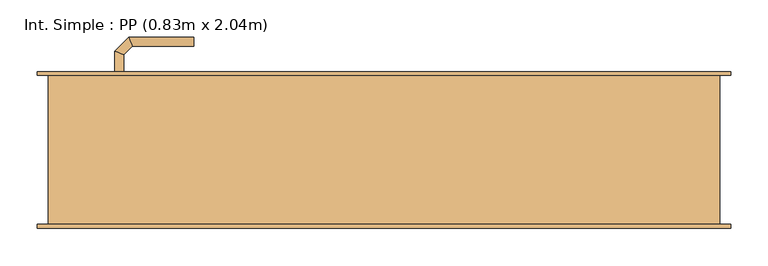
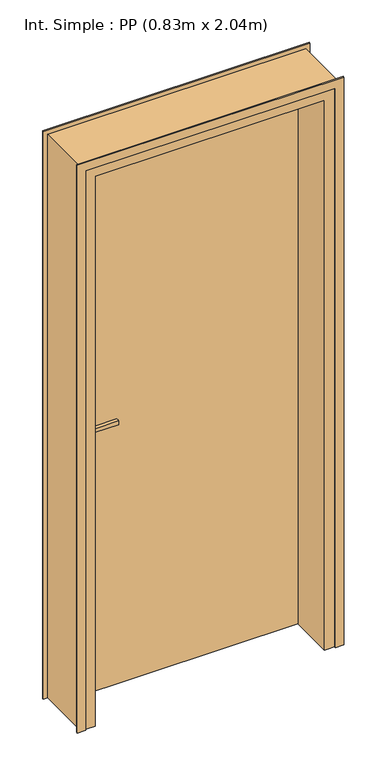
"""IFC4 building model written with IfcOpenShell, lengths in millimetres: door geometry, Int. Simple : PP (0.83m x 2.04m)."""

from ifc_helpers import new_model, si_unit, point, frame, frame_2d, origin, origin_with_axes, place, context, project, spatial, polyline, circle_curve, ellipse_curve, trimmed, segment, composite_curve, outline, extrude, faceted_brep, source, transform, mapped, element, save
from ifc_brep_helpers import plane_surface, cylinder_surface, advanced_brep


def int_simple_pp_0_83m_x_2_04m_d9e52805(model_context):
    return source(origin(), model_context, "Body", "SolidModel", [
        extrude(outline(composite_curve([segment(trimmed(circle_curve(frame_2d((904.6410162, -390.0)), 40.0), [point((870.0, -410.0))], [point((870.0, -370.0))], False, "CARTESIAN"), True, "CONTINUOUS"), segment(polyline([(870.0, -370.0), (1080.0, -370.0)]), True, "CONTINUOUS"), segment(trimmed(circle_curve(frame_2d((1045.3589838, -390.0)), 40.0), [point((1080.0, -370.0))], [point((1080.0, -410.0))], False, "CARTESIAN"), True, "CONTINUOUS"), segment(polyline([(1080.0, -410.0), (870.0, -410.0)]), True, "CONTINUOUS")], self_intersect=False)), frame((0.0, 100.0, 0.0), z_axis=(0.0, 1.0, 0.0), x_axis=(0.0, 0.0, 1.0)), (0.0, 0.0, 1.0), 5.0),
        extrude(outline(composite_curve([segment(trimmed(circle_curve(frame_2d((1045.3589838, -390.0)), 40.0), [point((1080.0, -370.0))], [point((1080.0, -410.0))], False, "CARTESIAN"), True, "CONTINUOUS"), segment(polyline([(1080.0, -410.0), (870.0, -410.0)]), True, "CONTINUOUS"), segment(trimmed(circle_curve(frame_2d((904.6410162, -390.0)), 40.0), [point((870.0, -410.0))], [point((870.0, -370.0))], False, "CARTESIAN"), True, "CONTINUOUS"), segment(polyline([(870.0, -370.0), (1080.0, -370.0)]), True, "CONTINUOUS")], self_intersect=False)), frame((0.0, 55.0, 0.0), z_axis=(0.0, 1.0, 0.0), x_axis=(0.0, 0.0, 1.0)), (0.0, 0.0, 1.0), 5.0),
        advanced_brep(
        [(-396.0, 105.0, 1007.0), (-396.0, 105.0, 993.0), (-384.0, 105.0, 993.0), (-384.0, 105.0, 1007.0), (-384.0, 127.680388, 1007.0), (-396.0, 132.6509507, 1007.0), (-384.0, 127.680388, 993.0), (-396.0, 132.6509507, 993.0), (-372.6522273, 139.0281607, 1007.0), (-377.62279, 151.0281607, 1007.0), (-372.6522273, 139.0281607, 993.0), (-377.62279, 151.0281607, 993.0), (-289.9813594, 151.0281607, 1007.0), (-289.9813594, 139.0281607, 1007.0), (-289.9813594, 139.0281607, 993.0), (-289.9813594, 151.0281607, 993.0)],
        [
            (0, 1),
            (1, 2, circle_curve(frame((-390.0, 105.0, 1013.0457722), z_axis=(0.0, -1.0, 0.0), x_axis=(1.0, 0.0, 0.0)), 20.9244589)),
            (2, 3),
            (3, 0, circle_curve(frame((-390.0, 105.0, 986.9542278), z_axis=(0.0, -1.0, 0.0), x_axis=(1.0, 0.0, 0.0)), 20.9244589)),
            (3, 4),
            (4, 5, ellipse_curve(frame((-390.0, 130.1656693, 986.9542278), z_axis=(-0.3826834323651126, -0.9238795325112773, 0.0), x_axis=(0.9238795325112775, -0.38268343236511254, 0.0)), 22.6484711, 20.9244589)),
            (5, 0),
            (2, 6),
            (6, 4),
            (1, 7),
            (7, 6, ellipse_curve(frame((-390.0, 130.1656693, 1013.0457722), z_axis=(-0.3826834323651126, -0.9238795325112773, 0.0), x_axis=(0.9238795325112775, -0.38268343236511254, 0.0)), 22.6484711, 20.9244589)),
            (5, 7),
            (4, 8),
            (8, 9, ellipse_curve(frame((-375.1375086, 145.0281607, 986.9542278), z_axis=(-0.9238795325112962, -0.38268343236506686, 0.0), x_axis=(0.3826834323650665, -0.9238795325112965, 0.0)), 22.6484711, 20.9244589)),
            (9, 5),
            (6, 10),
            (10, 8),
            (7, 11),
            (11, 10, ellipse_curve(frame((-375.1375086, 145.0281607, 1013.0457722), z_axis=(-0.9238795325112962, -0.38268343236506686, 0.0), x_axis=(0.3826834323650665, -0.9238795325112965, 0.0)), 22.6484711, 20.9244589)),
            (9, 11),
            (12, 13, circle_curve(frame((-289.9813594, 145.0281607, 986.9542278), z_axis=(1.0, 0.0, 0.0), x_axis=(0.0, -1.0, 0.0)), 20.9244589)),
            (13, 14),
            (14, 15, circle_curve(frame((-289.9813594, 145.0281607, 1013.0457722), z_axis=(1.0, 0.0, 0.0), x_axis=(0.0, -1.0, 0.0)), 20.9244589)),
            (15, 12),
            (8, 13),
            (12, 9),
            (10, 14),
            (11, 15),
        ],
        [
            plane_surface(frame((-399.2195445, 105.0, 1000.0), z_axis=(0.0, -1.0, 0.0), x_axis=(0.0, 0.0, -1.0))),
            cylinder_surface(frame((-390.0, 105.0, 986.9542278), z_axis=(0.0, -1.0, 0.0), x_axis=(1.0, 0.0, 0.0)), 20.9244589),
            plane_surface(frame((-384.0, 105.0, 1007.0), z_axis=(1.0, 0.0, 0.0), x_axis=(0.0, 1.0, 0.0))),
            cylinder_surface(frame((-390.0, 105.0, 1013.0457722), z_axis=(0.0, -1.0, 0.0), x_axis=(1.0, 0.0, 0.0)), 20.9244589),
            plane_surface(frame((-396.0, 105.0, 993.0), z_axis=(-1.0, 0.0, 0.0), x_axis=(0.0, 1.0, 0.0))),
            cylinder_surface(frame((-390.0, 130.1656693, 986.9542278), z_axis=(-0.7071067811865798, -0.7071067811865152, 0.0), x_axis=(0.7071067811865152, -0.7071067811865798, 0.0)), 20.9244589),
            plane_surface(frame((-384.0, 127.680388, 1007.0), z_axis=(0.7071067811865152, -0.7071067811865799, 0.0), x_axis=(0.7071067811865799, 0.7071067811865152, 0.0))),
            cylinder_surface(frame((-390.0, 130.1656693, 1013.0457722), z_axis=(-0.7071067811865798, -0.7071067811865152, 0.0), x_axis=(0.7071067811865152, -0.7071067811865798, 0.0)), 20.9244589),
            plane_surface(frame((-396.0, 132.6509507, 993.0), z_axis=(-0.7071067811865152, 0.7071067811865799, 0.0), x_axis=(0.7071067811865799, 0.7071067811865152, 0.0))),
            plane_surface(frame((-289.9813594, 145.0281607, 990.7804555), z_axis=(1.0, 0.0, 0.0), x_axis=(0.0, -1.0, 0.0))),
            cylinder_surface(frame((-375.1375086, 145.0281607, 986.9542278), z_axis=(-1.0, 0.0, 0.0), x_axis=(0.0, -1.0, 0.0)), 20.9244589),
            plane_surface(frame((-372.6522273, 139.0281607, 1007.0), z_axis=(0.0, -1.0, 0.0), x_axis=(1.0, 0.0, 0.0))),
            cylinder_surface(frame((-375.1375086, 145.0281607, 1013.0457722), z_axis=(-1.0, 0.0, 0.0), x_axis=(0.0, -1.0, 0.0)), 20.9244589),
            plane_surface(frame((-377.62279, 151.0281607, 993.0), z_axis=(0.0, 1.0, 0.0), x_axis=(1.0, 0.0, 0.0))),
        ],
        [
            (0, [[1, 2, 3, 4]]),
            (1, [[5, 6, 7, -4]]),
            (2, [[8, 9, -5, -3]]),
            (3, [[10, 11, -8, -2]]),
            (4, [[-7, 12, -10, -1]]),
            (5, [[13, 14, 15, -6]]),
            (6, [[16, 17, -13, -9]]),
            (7, [[18, 19, -16, -11]]),
            (8, [[-15, 20, -18, -12]]),
            (9, [[21, 22, 23, 24]]),
            (10, [[25, -21, 26, -14]]),
            (11, [[27, -22, -25, -17]]),
            (12, [[28, -23, -27, -19]]),
            (13, [[-26, -24, -28, -20]]),
        ],
    ),
        advanced_brep(
        [(-384.0, 55.0, 993.0), (-396.0, 55.0, 993.0), (-396.0, 55.0, 1007.0), (-384.0, 55.0, 1007.0), (-384.0, 32.5147955, 1007.0), (-384.0, 32.5147955, 993.0), (-396.0, 27.5442327, 1007.0), (-396.0, 27.5442327, 993.0), (-372.5147186, 21.0295141, 1007.0), (-372.5147186, 21.0295141, 993.0), (-377.4852814, 9.0295141, 1007.0), (-377.4852814, 9.0295141, 993.0), (-289.9542163, 21.0295141, 993.0), (-289.9542163, 21.0295141, 1007.0), (-289.9542163, 9.0295141, 1007.0), (-289.9542163, 9.0295141, 993.0)],
        [
            (0, 1, circle_curve(frame((-390.0, 55.0, 1013.0457722), z_axis=(0.0, 1.0, 0.0), x_axis=(-1.0, 0.0, 0.0)), 20.9244589)),
            (1, 2),
            (2, 3, circle_curve(frame((-390.0, 55.0, 986.9542278), z_axis=(0.0, 1.0, 0.0), x_axis=(-1.0, 0.0, 0.0)), 20.9244589)),
            (3, 0),
            (3, 4),
            (4, 5),
            (5, 0),
            (2, 6),
            (6, 4, ellipse_curve(frame((-390.0, 30.0295141, 986.9542278), z_axis=(-0.3826834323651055, 0.9238795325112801, 0.0), x_axis=(0.9238795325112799, 0.3826834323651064, 0.0)), 22.6484711, 20.9244589)),
            (1, 7),
            (7, 6),
            (5, 7, ellipse_curve(frame((-390.0, 30.0295141, 1013.0457722), z_axis=(-0.3826834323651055, 0.9238795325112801, 0.0), x_axis=(0.9238795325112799, 0.3826834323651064, 0.0)), 22.6484711, 20.9244589)),
            (4, 8),
            (8, 9),
            (9, 5),
            (6, 10),
            (10, 8, ellipse_curve(frame((-375.0, 15.0295141, 986.9542278), z_axis=(-0.9238795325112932, 0.382683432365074, 0.0), x_axis=(0.3826834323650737, 0.9238795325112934, 0.0)), 22.6484711, 20.9244589)),
            (7, 11),
            (11, 10),
            (9, 11, ellipse_curve(frame((-375.0, 15.0295141, 1013.0457722), z_axis=(-0.9238795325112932, 0.382683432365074, 0.0), x_axis=(0.3826834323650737, 0.9238795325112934, 0.0)), 22.6484711, 20.9244589)),
            (12, 13),
            (13, 14, circle_curve(frame((-289.9542163, 15.0295141, 986.9542278), z_axis=(1.0, 0.0, 0.0), x_axis=(0.0, -1.0, 0.0)), 20.9244589)),
            (14, 15),
            (15, 12, circle_curve(frame((-289.9542163, 15.0295141, 1013.0457722), z_axis=(1.0, 0.0, 0.0), x_axis=(0.0, -1.0, 0.0)), 20.9244589)),
            (8, 13),
            (12, 9),
            (10, 14),
            (11, 15),
        ],
        [
            plane_surface(frame((-399.2195445, 55.0, 1000.0), z_axis=(0.0, 1.0, 0.0), x_axis=(0.0, 0.0, 1.0))),
            plane_surface(frame((-384.0, 55.0, 993.0), z_axis=(1.0, 0.0, 0.0), x_axis=(0.0, -1.0, 0.0))),
            cylinder_surface(frame((-390.0, 55.0, 986.9542278), z_axis=(0.0, 1.0, 0.0), x_axis=(-1.0, 0.0, 0.0)), 20.9244589),
            plane_surface(frame((-396.0, 55.0, 1007.0), z_axis=(-1.0, 0.0, 0.0), x_axis=(0.0, -1.0, 0.0))),
            cylinder_surface(frame((-390.0, 55.0, 1013.0457722), z_axis=(0.0, 1.0, 0.0), x_axis=(-1.0, 0.0, 0.0)), 20.9244589),
            plane_surface(frame((-384.0, 32.5147955, 993.0), z_axis=(0.7071067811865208, 0.7071067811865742, 0.0), x_axis=(0.7071067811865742, -0.7071067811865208, 0.0))),
            cylinder_surface(frame((-390.0, 30.0295141, 986.9542278), z_axis=(-0.7071067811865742, 0.7071067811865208, 0.0), x_axis=(-0.7071067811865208, -0.7071067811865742, 0.0)), 20.9244589),
            plane_surface(frame((-396.0, 27.5442327, 1007.0), z_axis=(-0.7071067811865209, -0.7071067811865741, 0.0), x_axis=(0.7071067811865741, -0.7071067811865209, 0.0))),
            cylinder_surface(frame((-390.0, 30.0295141, 1013.0457722), z_axis=(-0.7071067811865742, 0.7071067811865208, 0.0), x_axis=(-0.7071067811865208, -0.7071067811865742, 0.0)), 20.9244589),
            plane_surface(frame((-289.9542163, 15.0295141, 990.7804555), z_axis=(1.0, 0.0, 0.0), x_axis=(0.0, -1.0, 0.0))),
            plane_surface(frame((-372.5147186, 21.0295141, 993.0), z_axis=(0.0, 1.0, 0.0), x_axis=(1.0, 0.0, 0.0))),
            cylinder_surface(frame((-375.0, 15.0295141, 986.9542278), z_axis=(-1.0, 0.0, 0.0), x_axis=(0.0, -1.0, 0.0)), 20.9244589),
            plane_surface(frame((-377.4852814, 9.0295141, 1007.0), z_axis=(0.0, -1.0, 0.0), x_axis=(1.0, 0.0, 0.0))),
            cylinder_surface(frame((-375.0, 15.0295141, 1013.0457722), z_axis=(-1.0, 0.0, 0.0), x_axis=(0.0, -1.0, 0.0)), 20.9244589),
        ],
        [
            (0, [[1, 2, 3, 4]]),
            (1, [[5, 6, 7, -4]]),
            (2, [[8, 9, -5, -3]]),
            (3, [[10, 11, -8, -2]]),
            (4, [[-7, 12, -10, -1]]),
            (5, [[13, 14, 15, -6]]),
            (6, [[16, 17, -13, -9]]),
            (7, [[18, 19, -16, -11]]),
            (8, [[-15, 20, -18, -12]]),
            (9, [[21, 22, 23, 24]]),
            (10, [[25, -21, 26, -14]]),
            (11, [[27, -22, -25, -17]]),
            (12, [[28, -23, -27, -19]]),
            (13, [[-26, -24, -28, -20]]),
        ],
    ),
        extrude(outline(polyline([(-450.0, 60.0), (-450.0, 100.0), (380.0, 100.0), (380.0, 60.0), (-450.0, 60.0)])), origin_with_axes(), (0.0, 0.0, 1.0), 2040.0),
        faceted_brep([(-485.0, 100.0, 0.0), (-450.0, 100.0, 0.0), (-450.0, 60.0, 0.0), (-435.0, 60.0, 0.0), (-435.0, -100.0, 0.0), (-485.0, -100.0, 0.0), (-485.0, -100.0, 2075.0), (-485.0, 100.0, 2075.0), (-435.0, -100.0, 2025.0), (365.0, -100.0, 2025.0), (365.0, -100.0, 0.0), (415.0, -100.0, 0.0), (415.0, -100.0, 2075.0), (-435.0, 60.0, 2025.0), (-450.0, 60.0, 2040.0), (380.0, 60.0, 2040.0), (380.0, 60.0, 0.0), (365.0, 60.0, 0.0), (365.0, 60.0, 2025.0), (-450.0, 100.0, 2040.0), (415.0, 100.0, 2075.0), (415.0, 100.0, 0.0), (380.0, 100.0, 0.0), (380.0, 100.0, 2040.0)], [[[0, 1, 2, 3, 4, 5]], [[5, 6, 7, 0]], [[4, 8, 9, 10, 11, 12, 6, 5]], [[3, 13, 8, 4]], [[2, 14, 15, 16, 17, 18, 13, 3]], [[1, 19, 14, 2]], [[0, 7, 20, 21, 22, 23, 19, 1]], [[12, 11, 21, 20]], [[21, 11, 10, 17, 16, 22]], [[18, 17, 10, 9]], [[23, 22, 16, 15]], [[6, 12, 20, 7]], [[13, 18, 9, 8]], [[19, 23, 15, 14]]]),
        extrude(outline(polyline([(0.0, -470.0), (2060.0, -470.0), (2060.0, 400.0), (0.0, 400.0), (0.0, 430.0), (2090.0, 430.0), (2090.0, -500.0), (0.0, -500.0), (0.0, -470.0)])), frame((0.0, 100.0, 0.0), z_axis=(0.0, 1.0, 0.0), x_axis=(0.0, 0.0, 1.0)), (0.0, 0.0, 1.0), 5.0),
        extrude(outline(polyline([(0.0, -470.0), (2060.0, -470.0), (2060.0, 400.0), (0.0, 400.0), (0.0, 430.0), (2090.0, 430.0), (2090.0, -500.0), (0.0, -500.0), (0.0, -470.0)])), frame((0.0, -105.0, 0.0), z_axis=(0.0, 1.0, 0.0), x_axis=(0.0, 0.0, 1.0)), (0.0, 0.0, 1.0), 5.0),
    ])


if __name__ == "__main__":
    model = new_model("IFC4")
    model_context = context("Model", 3, world=origin())
    ifc_project = project(units=[si_unit("LENGTHUNIT", "METRE", prefix="MILLI")], contexts=[model_context])
    site = spatial("IfcSite", under=ifc_project)
    building = spatial("IfcBuilding", under=site)
    placement = place(None, origin())
    int_simple_pp_0_83m_x_2_04m_shape = int_simple_pp_0_83m_x_2_04m_d9e52805(model_context)
    element("IfcDoor", 1, ObjectType="Int. Simple : PP (0.83m x 2.04m)", at=placement, inside=building, context=model_context, shape_type="MappedRepresentation", body=[
        mapped(int_simple_pp_0_83m_x_2_04m_shape, transform((0.0, 0.0, 0.0), x_axis=(1.0, 0.0, 0.0), y_axis=(0.0, 1.0, 0.0), z_axis=(0.0, 0.0, 1.0))),
    ])
    save(model, "model.ifc")
